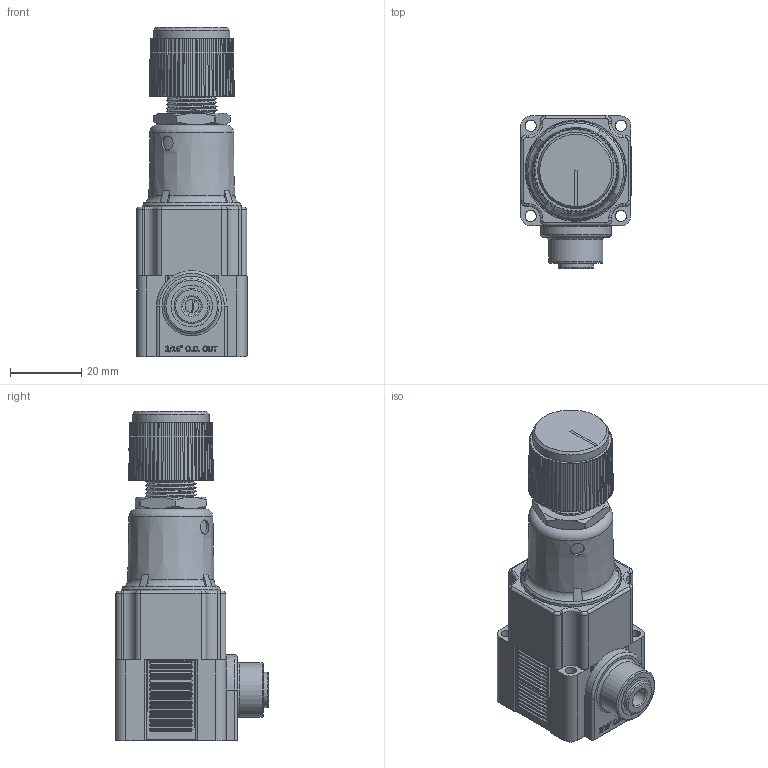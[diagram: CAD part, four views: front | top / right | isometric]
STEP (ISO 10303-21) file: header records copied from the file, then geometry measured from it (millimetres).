
FILE_DESCRIPTION(/* description */ (''),/* implementation_level */ '2;1');
FILE_NAME(/* name */ 'K:\Normteile INVENTOR\Air-Logic\Regulators\NR4000\NR 4___ 4 Push-In Fittings for 3''16 O.D. Tube Out.igs.ipt.stp',/* time_stamp */ '2020-05-27T10:50:53+02:00',/* author */ ('Paul'),/* organization */ (''),/* preprocessor_version */ 'ST-DEVELOPER v18',/* originating_system */ 'Autodesk Inventor 2020',/* authorisation */ '');
FILE_SCHEMA (('AUTOMOTIVE_DESIGN { 1 0 10303 214 3 1 1 }'));
Length unit declared in the file: inch
Products named in the file (1): NR 4___ 4 Push-In Fittings for 3'16 O.D. Tube Out.igs
Bounding box: 31.06 x 43.08 x 92.65 mm (x, y, z)
Volume: 57366.8 mm3; surface area: 19209.5 mm2
Topology: 1 solids, 1 shells, 1066 faces, 2751 edges, 1766 vertices
Faces by surface type: plane 519, cylinder 333, bspline 106, cone 82, torus 26
Full cylindrical faces by diameter (mm): 3.175 x4, 3.785 x1, 3.988 x1, 4.039 x1, 4.064 x1, 5.207 x1, 6.045 x1, 9.169 x1, 9.398 x1, 9.906 x1, 11.735 x1, 12.903 x1, 14.288 x2, 15.291 x1, 19.406 x1, 21.476 x1, 26.264 x1, 27.94 x1, 28.575 x1
Entity records: 41952 total; most frequent: CARTESIAN_POINT 14815, ORIENTED_EDGE 5502, DIRECTION 5383, EDGE_CURVE 2751, AXIS2_PLACEMENT_3D 2002, VERTEX_POINT 1766, LINE 1379, VECTOR 1379
